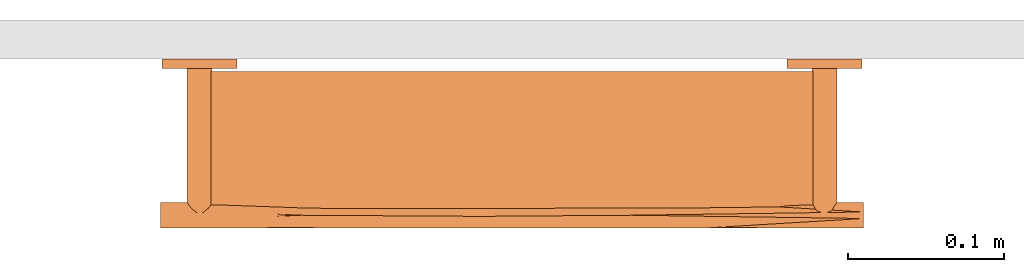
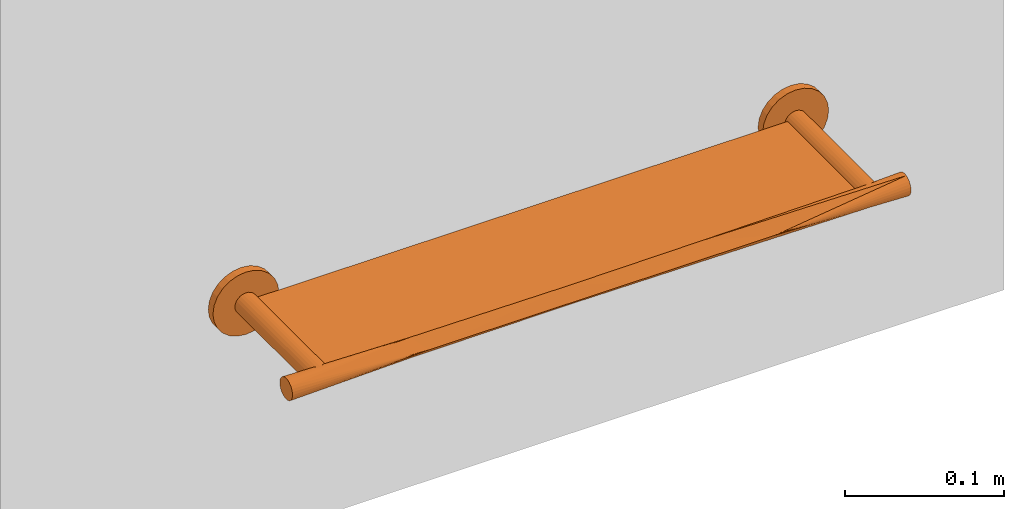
# One storey, part 2 of 2: 1 proxy.
"""IFC2X3 building model written with IfcOpenShell, lengths in millimetres."""

from ifc_helpers import new_model, entity, si_unit, converted_unit, derived_unit, direction, frame, origin, place, context, subcontext, project, spatial, faceted_brep, source, transform, mapped, material, material_list, element, save


model = new_model("IFC2X3")

# Units and contexts
model_context = context("Model", 3, precision=1e-05, world=origin(), true_north=direction((2.0, 6.12303176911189e-17, 1.0)))
context_of_model = context(None, 3, precision=1e-05, world=origin(), true_north=direction((2.0, 6.12303176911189e-17, 1.0)))
body_context = subcontext(model_context, "Body", "Model", "MODEL_VIEW")
ifc_project = project(units=[si_unit("LENGTHUNIT", "METRE", prefix="MILLI"), si_unit("AREAUNIT", "SQUARE_METRE"), si_unit("VOLUMEUNIT", "CUBIC_METRE"), converted_unit("PLANEANGLEUNIT", "DEGREE", entity("IfcRatioMeasure", 0.0174532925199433), si_unit("PLANEANGLEUNIT", "RADIAN"), dimensions=[0, 0, 0, 0, 0, 0, 0]), si_unit("MASSUNIT", "GRAM", prefix="KILO"), si_unit("TIMEUNIT", "SECOND"), si_unit("THERMODYNAMICTEMPERATUREUNIT", "KELVIN"), derived_unit("THERMALTRANSMITTANCEUNIT", [(si_unit("MASSUNIT", "GRAM", prefix="KILO"), 1), (si_unit("THERMODYNAMICTEMPERATUREUNIT", "KELVIN"), -1), (si_unit("TIMEUNIT", "SECOND"), -3)]), derived_unit("VOLUMETRICFLOWRATEUNIT", [(si_unit("LENGTHUNIT", "METRE"), 3), (si_unit("TIMEUNIT", "SECOND"), -1)]), si_unit("POWERUNIT", "WATT")], contexts=[model_context, context_of_model])

# Site, building, storey
site_placement = place(None, origin())
site = spatial("IfcSite", under=ifc_project, at=site_placement, Name="Default", CompositionType="ELEMENT")
building_placement = place(site_placement, origin())
building = spatial("IfcBuilding", under=site, at=building_placement, CompositionType="ELEMENT")
storey_placement = place(building_placement, origin())
storey = spatial("IfcBuildingStorey", under=building, at=storey_placement, Name="Level 1", CompositionType="ELEMENT", Elevation=0.0)

# Proxy
ifc_material = material(Name="Glass")
ifc_material_list = material_list([ifc_material])
shared_shape = source(origin(), body_context, "Body", "Brep", [
    faceted_brep([(-200.0, -100.0, 3.50000000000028), (-200.0, -100.0, 0.0), (-200.0, -100.0, -3.49999999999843), (200.0, -100.0, -3.49999999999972), (200.0, -100.0, 3.50000000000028), (-200.0, -8.0, 3.50000000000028), (200.0, -8.0, 3.50000000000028), (200.0, -8.0, -3.49999999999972), (-200.0, -8.0, -3.49999999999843), (-200.0, -8.0, 0.0), (-200.0, -100.0, 0.0), (-200.0, -100.0, 3.50000000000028), (-200.0, -8.0, 3.50000000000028), (-200.0, -8.0, 0.0), (-200.0, -100.0, -3.49999999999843), (-200.0, -100.0, 0.0), (-200.0, -8.0, 0.0), (-200.0, -8.0, -3.49999999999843), (200.0, -100.0, -3.49999999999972), (-200.0, -100.0, -3.49999999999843), (-200.0, -8.0, -3.49999999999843), (200.0, -8.0, -3.49999999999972), (200.0, -100.0, 3.50000000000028), (200.0, -100.0, -3.49999999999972), (200.0, -8.0, -3.49999999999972), (200.0, -8.0, 3.50000000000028), (-200.0, -100.0, 3.50000000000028), (200.0, -100.0, 3.50000000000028), (200.0, -8.0, 3.50000000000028), (-200.0, -8.0, 3.50000000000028)], [[[0, 1, 2, 3, 4]], [[5, 6, 7, 8, 9]], [[10, 11, 12, 13]], [[14, 15, 16, 17]], [[18, 19, 20, 21]], [[22, 23, 24, 25]], [[26, 27, 28, 29]]]),
    faceted_brep([(225.0, -95.9888457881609, -6.947522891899), (225.0, -94.3273713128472, -5.6726286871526), (225.0, -93.0524771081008, -4.01115421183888), (225.0, -92.2510451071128, -2.07632620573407), (225.0, -91.9776915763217, 0.0), (225.0, -92.2510451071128, 2.07632620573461), (225.0, -93.0524771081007, 4.01115421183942), (225.0, -94.3273713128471, 5.67262868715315), (225.0, -95.9888457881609, 6.94752289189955), (225.0, -97.9236737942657, 7.74895489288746), (225.0, -100.0, 8.02230842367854), (225.0, -102.076326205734, 7.74895489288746), (225.0, -104.011154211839, 6.94752289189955), (225.0, -105.672628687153, 5.67262868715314), (225.0, -106.947522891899, 4.01115421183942), (225.0, -107.748954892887, 2.07632620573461), (225.0, -108.022308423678, 0.0), (225.0, -107.748954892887, -2.07632620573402), (225.0, -106.947522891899, -4.01115421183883), (225.0, -105.672628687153, -5.67262868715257), (225.0, -104.011154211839, -6.94752289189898), (225.0, -102.076326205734, -7.74895489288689), (225.0, -100.0, -8.02230842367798), (225.0, -97.9236737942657, -7.7489548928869), (-225.0, -100.0, 8.02230842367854), (-225.0, -97.9236737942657, 7.74895489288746), (-225.0, -95.9888457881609, 6.94752289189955), (-225.0, -94.3273713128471, 5.67262868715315), (-225.0, -93.0524771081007, 4.01115421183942), (-225.0, -92.2510451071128, 2.07632620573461), (-225.0, -91.9776915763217, 0.0), (-225.0, -92.2510451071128, -2.07632620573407), (-225.0, -93.0524771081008, -4.01115421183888), (-225.0, -94.3273713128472, -5.6726286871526), (-225.0, -95.9888457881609, -6.947522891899), (-225.0, -97.9236737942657, -7.7489548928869), (-225.0, -100.0, -8.02230842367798), (-225.0, -102.076326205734, -7.74895489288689), (-225.0, -104.011154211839, -6.94752289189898), (-225.0, -105.672628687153, -5.67262868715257), (-225.0, -106.947522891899, -4.01115421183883), (-225.0, -107.748954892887, -2.07632620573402), (-225.0, -108.022308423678, 0.0), (-225.0, -107.748954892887, 2.07632620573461), (-225.0, -106.947522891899, 4.01115421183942), (-225.0, -105.672628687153, 5.67262868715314), (-225.0, -104.011154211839, 6.94752289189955), (-225.0, -102.076326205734, 7.74895489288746), (126.102079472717, -91.9776915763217, 0.0), (-20.0941372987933, -99.2825497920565, -7.99016255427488), (-126.102079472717, -91.9776915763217, 0.0), (0.0, -91.9776915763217, 0.0), (27.204158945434, -91.9776915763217, 0.0), (76.6531219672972, -100.0, -8.02230842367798), (126.102076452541, -108.022308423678, 0.0), (27.2041605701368, -108.022308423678, 0.0), (0.0, -108.022308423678, 0.0), (-134.905181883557, -99.9999996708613, -8.02230842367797), (-126.10207931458, -108.022308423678, 0.0), (76.6531219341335, -100.0, 8.02230842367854), (-20.0941378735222, -100.717450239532, 7.99016255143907), (-134.905183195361, -100.000000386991, 8.02230842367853)], [[[0, 1, 2, 3, 4, 5, 6, 7, 8, 9, 10, 11, 12, 13, 14, 15, 16, 17, 18, 19, 20, 21, 22, 23]], [[24, 25, 26, 27, 28, 29, 30, 31, 32, 33, 34, 35, 36, 37, 38, 39, 40, 41, 42, 43, 44, 45, 46, 47]], [[48, 1, 0]], [[49, 50, 51, 52]], [[53, 54, 55, 56]], [[38, 37, 57]], [[2, 1, 48]], [[57, 37, 36]], [[19, 18, 54]], [[58, 40, 39]], [[49, 57, 50]], [[34, 57, 35]], [[35, 57, 36]], [[58, 57, 49]], [[58, 42, 41]], [[17, 16, 54]], [[22, 53, 23]], [[56, 49, 53]], [[18, 17, 54]], [[40, 58, 41]], [[38, 57, 39]], [[53, 52, 48]], [[21, 53, 22]], [[33, 57, 34]], [[48, 4, 3]], [[31, 30, 50]], [[33, 32, 50]], [[50, 32, 31]], [[58, 39, 57]], [[49, 52, 53]], [[2, 48, 3]], [[54, 20, 19]], [[53, 48, 23]], [[0, 23, 48]], [[54, 53, 21]], [[21, 20, 54]], [[58, 49, 56]], [[33, 50, 57]], [[59, 48, 52, 51]], [[60, 58, 56, 55]], [[61, 25, 24]], [[54, 13, 12]], [[59, 55, 54]], [[60, 61, 58]], [[45, 61, 46]], [[48, 7, 6]], [[50, 61, 60]], [[25, 61, 26]], [[50, 30, 29]], [[5, 4, 48]], [[50, 28, 27]], [[28, 50, 29]], [[10, 9, 59]], [[14, 13, 54]], [[60, 59, 51]], [[46, 61, 47]], [[26, 61, 27]], [[48, 6, 5]], [[54, 16, 15]], [[43, 42, 58]], [[58, 45, 44]], [[58, 44, 43]], [[50, 27, 61]], [[55, 59, 60]], [[14, 54, 15]], [[50, 60, 51]], [[48, 8, 7]], [[47, 61, 24]], [[59, 54, 11]], [[54, 12, 11]], [[9, 48, 59]], [[8, 48, 9]], [[10, 59, 11]], [[45, 58, 61]]]),
    faceted_brep([(204.011154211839, -100.0, -6.94752289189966), (205.672628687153, -100.0, -5.67262868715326), (206.947522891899, -100.0, -4.01115421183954), (207.748954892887, -100.0, -2.07632620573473), (208.022308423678, -100.0, 0.0), (207.748954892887, -100.0, 2.07632620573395), (206.947522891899, -100.0, 4.01115421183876), (205.672628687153, -100.0, 5.67262868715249), (204.011154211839, -100.0, 6.9475228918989), (202.076326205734, -100.0, 7.74895489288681), (200.0, -100.0, 8.02230842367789), (197.923673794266, -100.0, 7.74895489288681), (195.988845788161, -100.0, 6.94752289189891), (194.327371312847, -100.0, 5.67262868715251), (193.052477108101, -100.0, 4.01115421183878), (192.251045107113, -100.0, 2.07632620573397), (191.977691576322, -100.0, 0.0), (192.251045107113, -100.0, -2.07632620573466), (193.052477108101, -100.0, -4.01115421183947), (194.327371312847, -100.0, -5.67262868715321), (195.988845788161, -100.0, -6.94752289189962), (197.923673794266, -100.0, -7.74895489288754), (200.0, -100.0, -8.02230842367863), (202.076326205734, -100.0, -7.74895489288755), (193.052477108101, 0.0, 4.01115421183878), (194.327371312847, 0.0, 5.67262868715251), (195.988845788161, 0.0, 6.94752289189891), (197.923673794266, 0.0, 7.74895489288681), (200.0, 0.0, 8.02230842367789), (202.076326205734, 0.0, 7.74895489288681), (204.011154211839, 0.0, 6.9475228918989), (205.672628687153, 0.0, 5.67262868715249), (206.947522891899, 0.0, 4.01115421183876), (207.748954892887, 0.0, 2.07632620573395), (208.022308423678, 0.0, 0.0), (207.748954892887, 0.0, -2.07632620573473), (206.947522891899, 0.0, -4.01115421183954), (205.672628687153, 0.0, -5.67262868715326), (204.011154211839, 0.0, -6.94752289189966), (202.076326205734, 0.0, -7.74895489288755), (200.0, 0.0, -8.02230842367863), (197.923673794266, 0.0, -7.74895489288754), (195.988845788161, 0.0, -6.94752289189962), (194.327371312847, 0.0, -5.67262868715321), (193.052477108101, 0.0, -4.01115421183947), (192.251045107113, 0.0, -2.07632620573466), (191.977691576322, 0.0, 0.0), (192.251045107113, 0.0, 2.07632620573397)], [[[0, 1, 2, 3, 4, 5, 6, 7, 8, 9, 10, 11, 12, 13, 14, 15, 16, 17, 18, 19, 20, 21, 22, 23]], [[24, 25, 26, 27, 28, 29, 30, 31, 32, 33, 34, 35, 36, 37, 38, 39, 40, 41, 42, 43, 44, 45, 46, 47]], [[45, 17, 16, 46]], [[44, 18, 17, 45]], [[20, 19, 43, 42]], [[44, 43, 19, 18]], [[21, 20, 42, 41]], [[41, 40, 22, 21]], [[39, 23, 22, 40]], [[38, 0, 23, 39]], [[2, 1, 37, 36]], [[38, 37, 1, 0]], [[3, 2, 36, 35]], [[34, 4, 3, 35]], [[33, 5, 4, 34]], [[32, 6, 5, 33]], [[8, 7, 31, 30]], [[32, 31, 7, 6]], [[9, 8, 30, 29]], [[10, 9, 29, 28]], [[27, 11, 10, 28]], [[15, 14, 24, 47]], [[24, 14, 13, 25]], [[15, 47, 46, 16]], [[11, 27, 26, 12]], [[12, 26, 25, 13]]]),
    faceted_brep([(-195.988845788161, -100.0, -6.94752289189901), (-194.327371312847, -100.0, -5.67262868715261), (-193.052477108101, -100.0, -4.01115421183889), (-192.251045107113, -100.0, -2.07632620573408), (-191.977691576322, -100.0, 0.0), (-192.251045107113, -100.0, 2.07632620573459), (-193.052477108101, -100.0, 4.01115421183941), (-194.327371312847, -100.0, 5.67262868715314), (-195.988845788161, -100.0, 6.94752289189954), (-197.923673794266, -100.0, 7.74895489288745), (-200.0, -100.0, 8.02230842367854), (-202.076326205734, -100.0, 7.74895489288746), (-204.011154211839, -100.0, 6.94752289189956), (-205.672628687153, -100.0, 5.67262868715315), (-206.947522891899, -100.0, 4.01115421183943), (-207.748954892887, -100.0, 2.07632620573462), (-208.022308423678, -100.0, 0.0), (-207.748954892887, -100.0, -2.07632620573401), (-206.947522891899, -100.0, -4.01115421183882), (-205.672628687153, -100.0, -5.67262868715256), (-204.011154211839, -100.0, -6.94752289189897), (-202.076326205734, -100.0, -7.74895489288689), (-200.0, -100.0, -8.02230842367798), (-197.923673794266, -100.0, -7.74895489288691), (-206.947522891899, 0.0, 4.01115421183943), (-205.672628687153, 0.0, 5.67262868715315), (-204.011154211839, 0.0, 6.94752289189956), (-202.076326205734, 0.0, 7.74895489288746), (-200.0, 0.0, 8.02230842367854), (-197.923673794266, 0.0, 7.74895489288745), (-195.988845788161, 0.0, 6.94752289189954), (-194.327371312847, 0.0, 5.67262868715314), (-193.052477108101, 0.0, 4.01115421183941), (-192.251045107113, 0.0, 2.07632620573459), (-191.977691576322, 0.0, 0.0), (-192.251045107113, 0.0, -2.07632620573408), (-193.052477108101, 0.0, -4.01115421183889), (-194.327371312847, 0.0, -5.67262868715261), (-195.988845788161, 0.0, -6.94752289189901), (-197.923673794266, 0.0, -7.74895489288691), (-200.0, 0.0, -8.02230842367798), (-202.076326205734, 0.0, -7.74895489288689), (-204.011154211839, 0.0, -6.94752289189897), (-205.672628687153, 0.0, -5.67262868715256), (-206.947522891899, 0.0, -4.01115421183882), (-207.748954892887, 0.0, -2.07632620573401), (-208.022308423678, 0.0, 0.0), (-207.748954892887, 0.0, 2.07632620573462)], [[[0, 1, 2, 3, 4, 5, 6, 7, 8, 9, 10, 11, 12, 13, 14, 15, 16, 17, 18, 19, 20, 21, 22, 23]], [[24, 25, 26, 27, 28, 29, 30, 31, 32, 33, 34, 35, 36, 37, 38, 39, 40, 41, 42, 43, 44, 45, 46, 47]], [[45, 17, 16, 46]], [[44, 18, 17, 45]], [[20, 19, 43, 42]], [[44, 43, 19, 18]], [[21, 20, 42, 41]], [[41, 40, 22, 21]], [[39, 23, 22, 40]], [[38, 0, 23, 39]], [[2, 1, 37, 36]], [[38, 37, 1, 0]], [[3, 2, 36, 35]], [[34, 4, 3, 35]], [[33, 5, 4, 34]], [[32, 6, 5, 33]], [[8, 7, 31, 30]], [[32, 31, 7, 6]], [[9, 8, 30, 29]], [[10, 9, 29, 28]], [[27, 11, 10, 28]], [[15, 14, 24, 47]], [[24, 14, 13, 25]], [[15, 47, 46, 16]], [[11, 27, 26, 12]], [[12, 26, 25, 13]]]),
    faceted_brep([(212.0, -6.0, -20.784609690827), (216.970562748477, -6.0, -16.9705627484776), (220.784609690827, -6.0, -12.0), (223.182219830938, -6.0, -6.21165708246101), (224.0, -6.0, 0.0), (223.182219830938, -6.0, 6.21165708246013), (220.784609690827, -6.0, 12.0), (216.970562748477, -6.0, 16.9705627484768), (212.0, -6.0, 20.7846096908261), (206.211657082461, -6.0, 23.1822198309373), (200.0, -6.0, 24.0), (193.78834291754, -6.0, 23.1822198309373), (188.0, -6.0, 20.7846096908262), (183.029437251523, -6.0, 16.9705627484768), (179.215390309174, -6.0, 12.0), (176.817780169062, -6.0, 6.2116570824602), (176.0, -6.0, 0.0), (176.817780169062, -6.0, -6.21165708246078), (179.215390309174, -6.0, -12.0), (183.029437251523, -6.0, -16.9705627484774), (188.0, -6.0, -20.7846096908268), (193.788342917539, -6.0, -23.182219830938), (200.0, -6.0, -24.0), (206.21165708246, -6.0, -23.182219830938), (206.211657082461, 0.0, 23.1822198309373), (212.0, 0.0, 20.7846096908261), (216.970562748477, 0.0, 16.9705627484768), (220.784609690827, 0.0, 12.0), (223.182219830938, 0.0, 6.21165708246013), (224.0, 0.0, 0.0), (223.182219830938, 0.0, -6.21165708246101), (220.784609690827, 0.0, -12.0), (216.970562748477, 0.0, -16.9705627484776), (212.0, 0.0, -20.784609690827), (206.21165708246, 0.0, -23.182219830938), (200.0, 0.0, -24.0), (193.788342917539, 0.0, -23.182219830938), (188.0, 0.0, -20.7846096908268), (183.029437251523, 0.0, -16.9705627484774), (179.215390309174, 0.0, -12.0), (176.817780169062, 0.0, -6.21165708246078), (176.0, 0.0, 0.0), (176.817780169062, 0.0, 6.2116570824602), (179.215390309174, 0.0, 12.0), (183.029437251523, 0.0, 16.9705627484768), (188.0, 0.0, 20.7846096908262), (193.78834291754, 0.0, 23.1822198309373), (200.0, 0.0, 24.0)], [[[0, 1, 2, 3, 4, 5, 6, 7, 8, 9, 10, 11, 12, 13, 14, 15, 16, 17, 18, 19, 20, 21, 22, 23]], [[24, 25, 26, 27, 28, 29, 30, 31, 32, 33, 34, 35, 36, 37, 38, 39, 40, 41, 42, 43, 44, 45, 46, 47]], [[40, 17, 16, 41]], [[39, 18, 17, 40]], [[20, 19, 38, 37]], [[39, 38, 19, 18]], [[21, 20, 37, 36]], [[22, 21, 36, 35]], [[34, 23, 22, 35]], [[33, 0, 23, 34]], [[2, 1, 32, 31]], [[33, 32, 1, 0]], [[3, 2, 31, 30]], [[4, 3, 30, 29]], [[28, 5, 4, 29]], [[27, 6, 5, 28]], [[8, 7, 26, 25]], [[27, 26, 7, 6]], [[9, 8, 25, 24]], [[10, 9, 24, 47]], [[46, 11, 10, 47]], [[45, 12, 11, 46]], [[14, 13, 44, 43]], [[45, 44, 13, 12]], [[15, 14, 43, 42]], [[16, 15, 42, 41]]]),
    faceted_brep([(-188.0, -6.0, -20.7846096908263), (-183.029437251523, -6.0, -16.970562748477), (-179.215390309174, -6.0, -12.0), (-176.817780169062, -6.0, -6.21165708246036), (-176.0, -6.0, 0.0), (-176.817780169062, -6.0, 6.21165708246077), (-179.215390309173, -6.0, 12.0), (-183.029437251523, -6.0, 16.9705627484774), (-188.0, -6.0, 20.7846096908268), (-193.78834291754, -6.0, 23.1822198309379), (-200.0, -6.0, 24.0), (-206.21165708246, -6.0, 23.1822198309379), (-212.0, -6.0, 20.7846096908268), (-216.970562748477, -6.0, 16.9705627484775), (-220.784609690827, -6.0, 12.0), (-223.182219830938, -6.0, 6.21165708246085), (-224.0, -6.0, 0.0), (-223.182219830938, -6.0, -6.21165708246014), (-220.784609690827, -6.0, -12.0), (-216.970562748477, -6.0, -16.9705627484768), (-212.0, -6.0, -20.7846096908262), (-206.211657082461, -6.0, -23.1822198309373), (-200.0, -6.0, -24.0), (-193.78834291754, -6.0, -23.1822198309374), (-193.78834291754, 0.0, 23.1822198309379), (-188.0, 0.0, 20.7846096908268), (-183.029437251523, 0.0, 16.9705627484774), (-179.215390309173, 0.0, 12.0), (-176.817780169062, 0.0, 6.21165708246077), (-176.0, 0.0, 0.0), (-176.817780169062, 0.0, -6.21165708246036), (-179.215390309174, 0.0, -12.0), (-183.029437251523, 0.0, -16.970562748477), (-188.0, 0.0, -20.7846096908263), (-193.78834291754, 0.0, -23.1822198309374), (-200.0, 0.0, -24.0), (-206.211657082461, 0.0, -23.1822198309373), (-212.0, 0.0, -20.7846096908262), (-216.970562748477, 0.0, -16.9705627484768), (-220.784609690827, 0.0, -12.0), (-223.182219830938, 0.0, -6.21165708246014), (-224.0, 0.0, 0.0), (-223.182219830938, 0.0, 6.21165708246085), (-220.784609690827, 0.0, 12.0), (-216.970562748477, 0.0, 16.9705627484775), (-212.0, 0.0, 20.7846096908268), (-206.21165708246, 0.0, 23.1822198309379), (-200.0, 0.0, 24.0)], [[[0, 1, 2, 3, 4, 5, 6, 7, 8, 9, 10, 11, 12, 13, 14, 15, 16, 17, 18, 19, 20, 21, 22, 23]], [[24, 25, 26, 27, 28, 29, 30, 31, 32, 33, 34, 35, 36, 37, 38, 39, 40, 41, 42, 43, 44, 45, 46, 47]], [[40, 17, 16, 41]], [[39, 18, 17, 40]], [[20, 19, 38, 37]], [[39, 38, 19, 18]], [[21, 20, 37, 36]], [[22, 21, 36, 35]], [[34, 23, 22, 35]], [[33, 0, 23, 34]], [[2, 1, 32, 31]], [[33, 32, 1, 0]], [[3, 2, 31, 30]], [[4, 3, 30, 29]], [[28, 5, 4, 29]], [[27, 6, 5, 28]], [[8, 7, 26, 25]], [[27, 26, 7, 6]], [[9, 8, 25, 24]], [[10, 9, 24, 47]], [[46, 11, 10, 47]], [[45, 12, 11, 46]], [[14, 13, 44, 43]], [[45, 44, 13, 12]], [[15, 14, 43, 42]], [[16, 15, 42, 41]]]),
])
proxy_placement = place(storey_placement, frame((1178.8013400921, 3952.69853342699, -60.0334760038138)))
element("IfcBuildingElementProxy", 1, at=proxy_placement, inside=storey, material=ifc_material_list, Name="BC729:BC729 Dolphin Glass Shelf", ObjectType="BC729 Dolphin Glass Shelf", CompositionType="ELEMENT", context=body_context, shape_type="MappedRepresentation", body=[
    mapped(shared_shape, transform((0.0, 0.0, 0.0), scale=1.0)),
])

save(model, "model.ifc")
